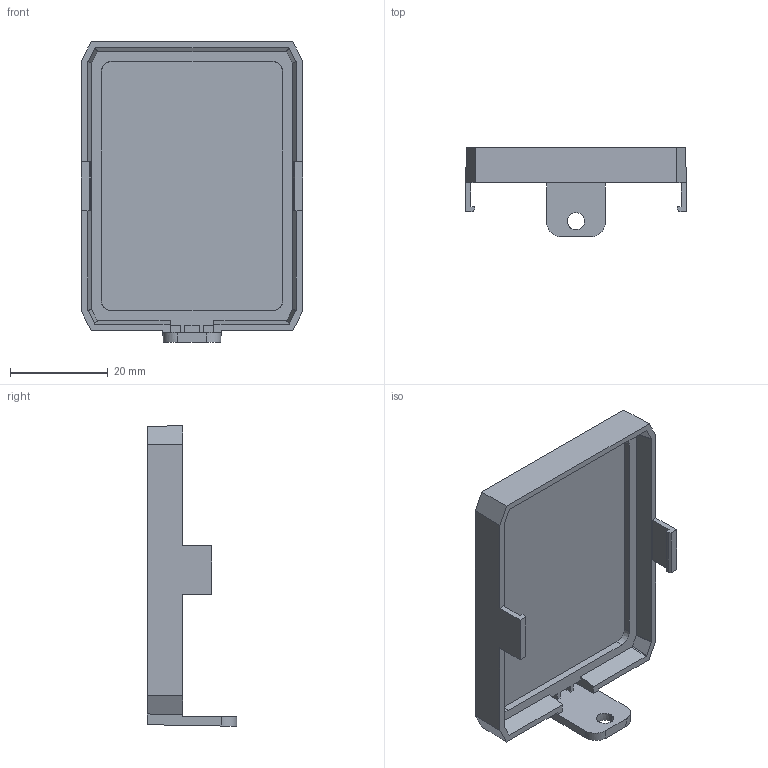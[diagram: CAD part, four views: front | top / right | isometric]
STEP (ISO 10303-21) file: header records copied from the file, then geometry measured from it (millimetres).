
FILE_DESCRIPTION((''),'2;1');
FILE_NAME('DE-12-003598_72','2023-11-10T11:04:47',('qinyangfan'),(''),'CREO PARAMETRIC BY PTC INC, 2020044','CREO PARAMETRIC BY PTC INC, 2020044','');
FILE_SCHEMA(('CONFIG_CONTROL_DESIGN'));
Length unit declared in the file: millimetre
Products named in the file (1): DE-12-003598_72
Bounding box: 45.41 x 18.3 x 61.6 mm (x, y, z)
Volume: 8063.3 mm3; surface area: 8352.3 mm2
Topology: 1 solids, 1 shells, 82 faces, 234 edges, 156 vertices
Faces by surface type: plane 62, cylinder 10, cone 10
Entity records: 2781 total; most frequent: CARTESIAN_POINT 619, ORIENTED_EDGE 468, DIRECTION 394, EDGE_CURVE 234, VECTOR 194, LINE 194, VERTEX_POINT 156, AXIS2_PLACEMENT_3D 100
